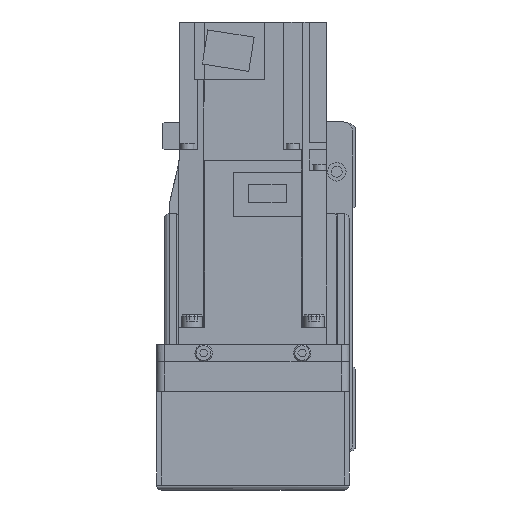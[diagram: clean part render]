
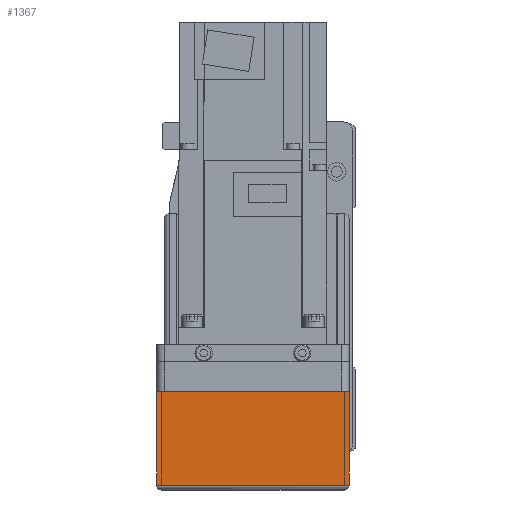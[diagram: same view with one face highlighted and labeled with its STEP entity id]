
A CAD part, left-side view. The second image highlights one B-rep face of the part: STEP entity #1367.
In plain terms, the highlighted planar face has unit normal (-1, 0, 0).
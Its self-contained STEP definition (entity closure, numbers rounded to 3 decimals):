
#1367 = ADVANCED_FACE( '', ( #3564 ), #3565, .F. );
#3564 = FACE_OUTER_BOUND( '', #6871, .T. );
#3565 = PLANE( '', #6872 );
#6871 = EDGE_LOOP( '', ( #10661, #10662, #10663, #10664 ) );
#6872 = AXIS2_PLACEMENT_3D( '', #10665, #10666, #10667 );
#10661 = ORIENTED_EDGE( '', *, *, #18730, .F. );
#10662 = ORIENTED_EDGE( '', *, *, #19183, .F. );
#10663 = ORIENTED_EDGE( '', *, *, #19184, .T. );
#10664 = ORIENTED_EDGE( '', *, *, #18811, .F. );
#10665 = CARTESIAN_POINT( '', ( -158., 36., 7. ) );
#10666 = DIRECTION( '', ( 1., 0., 0. ) );
#10667 = DIRECTION( '', ( 0., 0., -1. ) );
#18730 = EDGE_CURVE( '', #22203, #22205, #22206, .T. );
#18811 = EDGE_CURVE( '', #22205, #22349, #22350, .T. );
#19183 = EDGE_CURVE( '', #23003, #22203, #23004, .T. );
#19184 = EDGE_CURVE( '', #23003, #22349, #23005, .T. );
#22203 = VERTEX_POINT( '', #27399 );
#22205 = VERTEX_POINT( '', #27402 );
#22206 = LINE( '', #27403, #27404 );
#22349 = VERTEX_POINT( '', #27588 );
#22350 = LINE( '', #27589, #27590 );
#23003 = VERTEX_POINT( '', #28491 );
#23004 = LINE( '', #28492, #28493 );
#23005 = LINE( '', #28494, #28495 );
#27399 = CARTESIAN_POINT( '', ( -158., 39., -12.1 ) );
#27402 = CARTESIAN_POINT( '', ( -158., -39., -12.1 ) );
#27403 = CARTESIAN_POINT( '', ( -158., 50., -12.1 ) );
#27404 = VECTOR( '', #34895, 1000. );
#27588 = CARTESIAN_POINT( '', ( -158., -39., -50. ) );
#27589 = CARTESIAN_POINT( '', ( -158., -39., -12.1 ) );
#27590 = VECTOR( '', #35009, 1000. );
#28491 = CARTESIAN_POINT( '', ( -158., 39., -50. ) );
#28492 = CARTESIAN_POINT( '', ( -158., 39., -50. ) );
#28493 = VECTOR( '', #35485, 1000. );
#28494 = CARTESIAN_POINT( '', ( -158., 40., -50. ) );
#28495 = VECTOR( '', #35486, 1000. );
#34895 = DIRECTION( '', ( 0., -1., 0. ) );
#35009 = DIRECTION( '', ( 0., 0., -1. ) );
#35485 = DIRECTION( '', ( 0., 0., 1. ) );
#35486 = DIRECTION( '', ( 0., -1., 0. ) );
